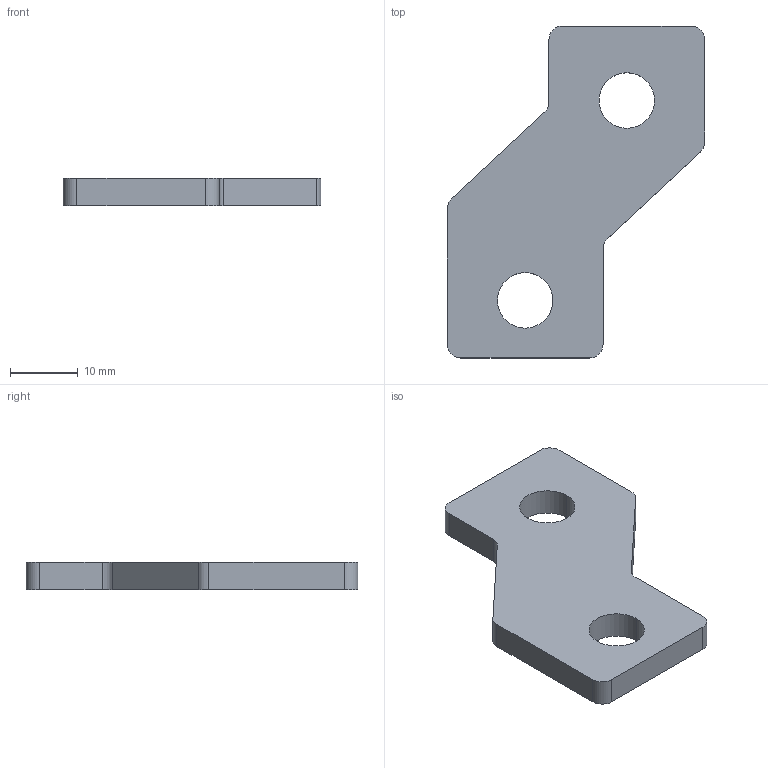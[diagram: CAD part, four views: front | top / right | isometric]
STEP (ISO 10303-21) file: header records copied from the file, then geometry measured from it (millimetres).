
FILE_DESCRIPTION((''),'2;1');
FILE_NAME('U2_4P_N_BUSBAR','2018-06-04T',('HHI'),(''),'PRO/ENGINEER BY PARAMETRIC TECHNOLOGY CORPORATION, 2012453','PRO/ENGINEER BY PARAMETRIC TECHNOLOGY CORPORATION, 2012453','');
FILE_SCHEMA(('CONFIG_CONTROL_DESIGN'));
Length unit declared in the file: millimetre
Products named in the file (1): U2_4P_N_BUSBAR
Bounding box: 38 x 49 x 4 mm (x, y, z)
Volume: 4425.2 mm3; surface area: 3031.5 mm2
Topology: 1 solids, 1 shells, 22 faces, 60 edges, 40 vertices
Faces by surface type: cylinder 12, plane 10
Entity records: 754 total; most frequent: DIRECTION 128, CARTESIAN_POINT 122, ORIENTED_EDGE 120, EDGE_CURVE 60, AXIS2_PLACEMENT_3D 46, VERTEX_POINT 40, VECTOR 36, LINE 36
